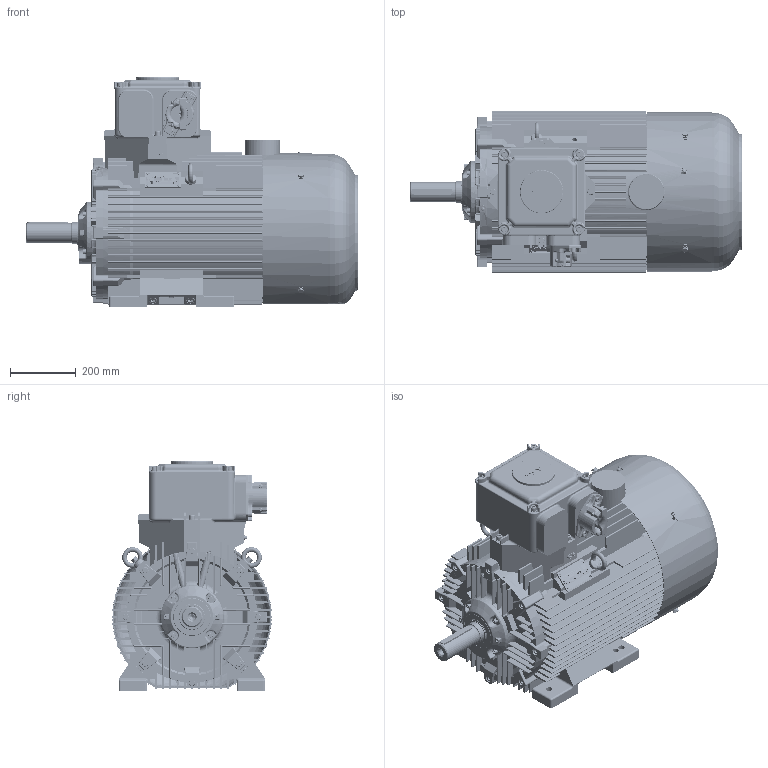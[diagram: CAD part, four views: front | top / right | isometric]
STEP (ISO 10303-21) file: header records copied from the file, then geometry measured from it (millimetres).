
FILE_DESCRIPTION(/* description */ ('Unknown'),/* implementation_level */ '2;1');
FILE_NAME(/* name */ 'Silnik EcSTe225 (S,M)(4-8) - wykonanie OUTSIDE !',/* time_stamp */ '2021-12-27T08:14:24+01:00',/* author */ ('Unknown'),/* organization */ ('Unknown'),/* preprocessor_version */ 'ST-DEVELOPER v16.7',/* originating_system */ 'DEX',/* authorisation */ $);
FILE_SCHEMA (('AUTOMOTIVE_DESIGN {1 0 10303 214 3 1 1}'));
Products named in the file (1): Silnik EcSTe225 (S,M)(4-8) - wykonanie OUTSIDE !
Bounding box: 1009.13 x 489.83 x 698.8 mm (x, y, z)
Volume: 29960211.5 mm3; surface area: 7032436.1 mm2
Topology: 3 solids, 92 shells, 9779 faces, 26762 edges, 17050 vertices
Faces by surface type: plane 5860, cylinder 2259, cone 507, torus 484, bspline 453, sphere 216
Full cylindrical faces by diameter (mm): 1.2 x4, 1.6 x2, 2.013 x1, 2.459 x3, 2.5 x2, 3 x8, 3.1 x4, 3.2 x2, 3.4 x6, 4.773 x1, 4.917 x4, 5 x3, 6 x2, 6.2 x14, 6.3 x1, 6.4 x2, 6.466 x8, 6.5 x1, 6.647 x4, 8 x17, 8.16 x4, 8.8 x1, 8.917 x4, 9 x8, 9.853 x24, 10 x20, 10.106 x25, 10.5 x4, 12 x52, 13 x8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
Entity records: 394107 total; most frequent: CARTESIAN_POINT 85462, ORIENTED_EDGE 49974, DIRECTION 47566, EDGE_CURVE 24987, LINE 16876, VECTOR 16876, VERTEX_POINT 16422, AXIS2_PLACEMENT_3D 15345
